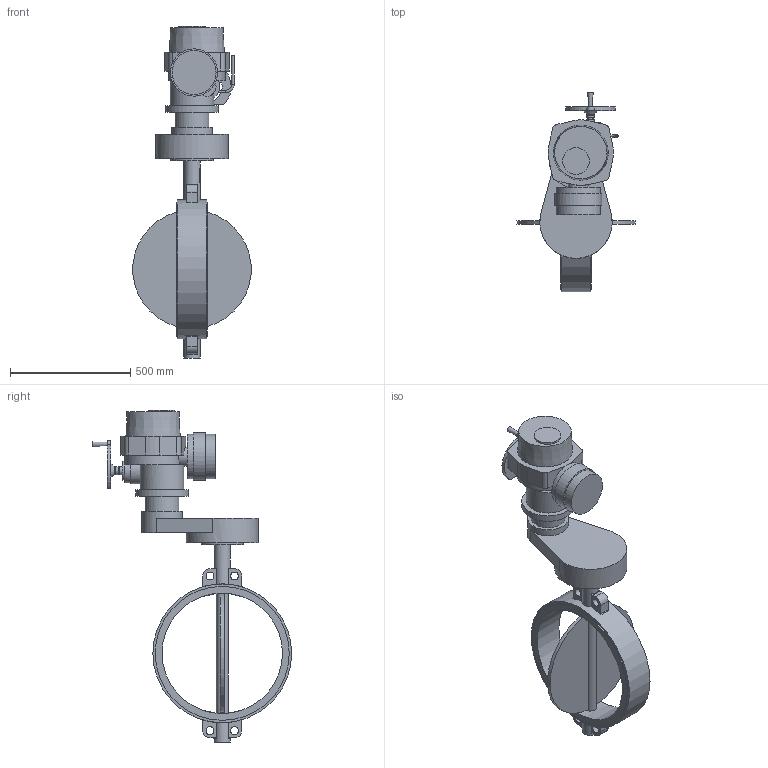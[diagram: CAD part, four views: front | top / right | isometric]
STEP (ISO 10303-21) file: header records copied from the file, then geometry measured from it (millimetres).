
FILE_DESCRIPTION(('STEP AP203'), '1');
FILE_NAME('青蜮铕 017W.YS_DN500_PN16_QT.A 300', '', ('UNSPECIFIED'), ('UNSPECIFIED'), 'ASCON STEP Converter 1.6', 'ASCON Math Kernel', '');
FILE_SCHEMA(('CONFIG_CONTROL_DESIGN'));
Length unit declared in the file: millimetre
Bounding box: 489.78 x 827 x 1378 mm (x, y, z)
Volume: 42786544.6 mm3; surface area: 2052604.9 mm2
Topology: 1 solids, 1 shells, 212 faces, 494 edges, 328 vertices
Faces by surface type: plane 117, cylinder 87, torus 5, cone 3
Full cylindrical faces by diameter (mm): 10 x2, 14 x12, 16 x1, 17.5 x4, 18 x4, 32 x2, 33 x4, 35 x1, 48 x1, 68 x2, 80 x2, 100 x1, 110 x1, 140 x1, 170 x1, 175 x1, 180 x1, 183 x2, 196 x1, 220 x1, 300 x1, 500 x1, 556 x2, 576 x1
Entity records: 9029 total; most frequent: CARTESIAN_POINT 2441, DIRECTION 1069, ORIENTED_EDGE 878, AXIS2_PLACEMENT_3D 447, EDGE_CURVE 439, EDGE_LOOP 328, VERTEX_POINT 327, FACE_BOUND 242
